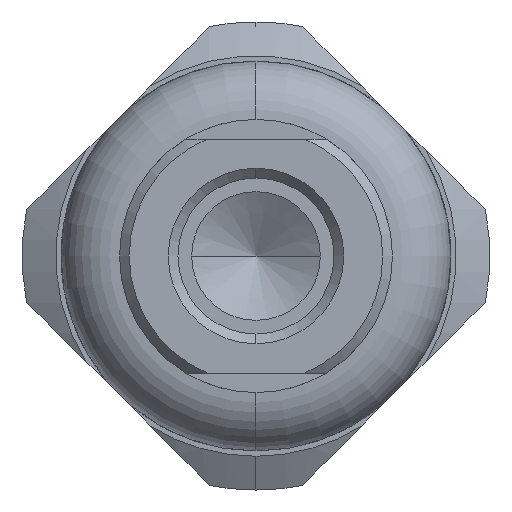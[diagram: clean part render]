
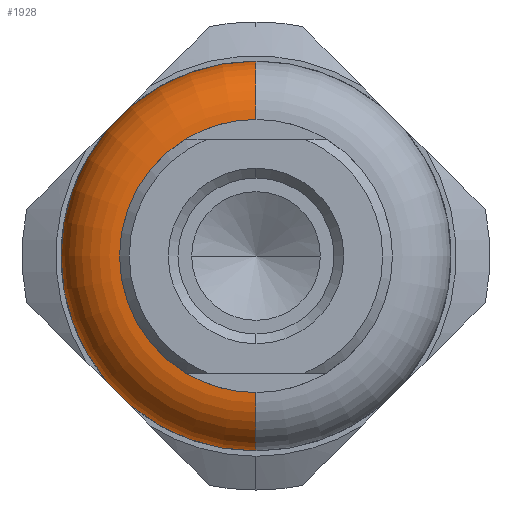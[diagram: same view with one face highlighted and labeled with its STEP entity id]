
A CAD part, left-side view. The second image highlights one B-rep face of the part: STEP entity #1928.
In plain terms, the highlighted toroidal (fillet/blend) face has major radius 3.5 mm and minor radius 1.5 mm.
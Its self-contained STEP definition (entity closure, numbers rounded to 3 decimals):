
#725 = EDGE_CURVE ( 'NONE', #1933, #727, #3296, .T. ) ;
#727 = VERTEX_POINT ( 'NONE', #3291 ) ;
#728 = ORIENTED_EDGE ( 'NONE', *, *, #725, .F. ) ;
#734 = EDGE_CURVE ( 'NONE', #727, #1936, #3281, .T. ) ;
#1672 = ORIENTED_EDGE ( 'NONE', *, *, #734, .F. ) ;
#1928 = ADVANCED_FACE ( 'NONE', ( #5609 ), #5611, .T. ) ;
#1929 = EDGE_LOOP ( 'NONE', ( #1930, #1934, #1672, #728 ) ) ;
#1930 = ORIENTED_EDGE ( 'NONE', *, *, #1931, .F. ) ;
#1931 = EDGE_CURVE ( 'NONE', #1932, #1933, #5604, .T. ) ;
#1932 = VERTEX_POINT ( 'NONE', #5595 ) ;
#1933 = VERTEX_POINT ( 'NONE', #5594 ) ;
#1934 = ORIENTED_EDGE ( 'NONE', *, *, #1935, .T. ) ;
#1935 = EDGE_CURVE ( 'NONE', #1932, #1936, #5593, .T. ) ;
#1936 = VERTEX_POINT ( 'NONE', #5643 ) ;
#3277 = DIRECTION ( 'NONE',  ( 0., 0., -1. ) ) ;
#3278 = DIRECTION ( 'NONE',  ( 1., 0., 0. ) ) ;
#3279 = CARTESIAN_POINT ( 'NONE',  ( 1.5, 0., 0. ) ) ;
#3280 = AXIS2_PLACEMENT_3D ( 'NONE', #3279, #3278, #3277 ) ;
#3281 = CIRCLE ( 'NONE', #3280, 5. ) ;
#3291 = CARTESIAN_POINT ( 'NONE',  ( 1.5, 0., -5. ) ) ;
#3292 = DIRECTION ( 'NONE',  ( 0., 0., -1. ) ) ;
#3293 = DIRECTION ( 'NONE',  ( 0., -1., 0. ) ) ;
#3294 = CARTESIAN_POINT ( 'NONE',  ( 1.5, 0., -3.5 ) ) ;
#3295 = AXIS2_PLACEMENT_3D ( 'NONE', #3294, #3293, #3292 ) ;
#3296 = CIRCLE ( 'NONE', #3295, 1.5 ) ;
#5593 = CIRCLE ( 'NONE', #5647, 1.5 ) ;
#5594 = CARTESIAN_POINT ( 'NONE',  ( 0., 0., -3.5 ) ) ;
#5595 = CARTESIAN_POINT ( 'NONE',  ( 0., 0., 3.5 ) ) ;
#5596 = DIRECTION ( 'NONE',  ( 0., 0., 1. ) ) ;
#5597 = DIRECTION ( 'NONE',  ( -1., 0., 0. ) ) ;
#5598 = CARTESIAN_POINT ( 'NONE',  ( 0., 0., 0. ) ) ;
#5599 = AXIS2_PLACEMENT_3D ( 'NONE', #5598, #5597, #5596 ) ;
#5600 = DIRECTION ( 'NONE',  ( 0., 0., -1. ) ) ;
#5601 = DIRECTION ( 'NONE',  ( 1., 0., 0. ) ) ;
#5602 = CARTESIAN_POINT ( 'NONE',  ( 1.5, 0., 0. ) ) ;
#5603 = AXIS2_PLACEMENT_3D ( 'NONE', #5602, #5601, #5600 ) ;
#5604 = CIRCLE ( 'NONE', #5599, 3.5 ) ;
#5609 = FACE_OUTER_BOUND ( 'NONE', #1929, .T. ) ;
#5611 = TOROIDAL_SURFACE ( 'NONE', #5603, 3.5, 1.5 ) ;
#5643 = CARTESIAN_POINT ( 'NONE',  ( 1.5, 0., 5. ) ) ;
#5644 = DIRECTION ( 'NONE',  ( 0., 0., 1. ) ) ;
#5645 = DIRECTION ( 'NONE',  ( 0., 1., 0. ) ) ;
#5646 = CARTESIAN_POINT ( 'NONE',  ( 1.5, 0., 3.5 ) ) ;
#5647 = AXIS2_PLACEMENT_3D ( 'NONE', #5646, #5645, #5644 ) ;
